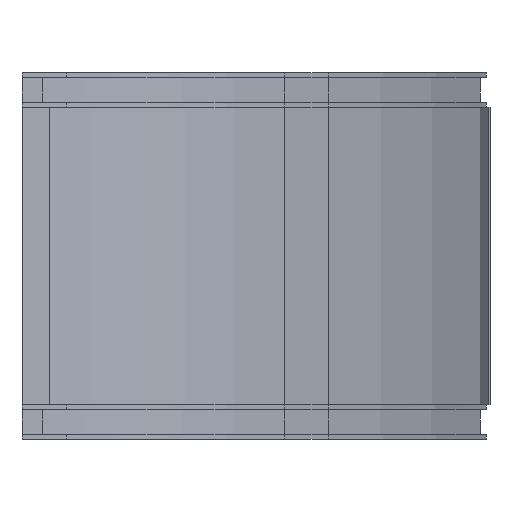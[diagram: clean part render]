
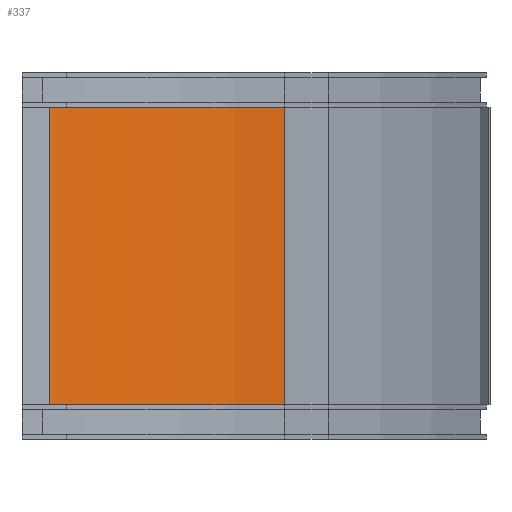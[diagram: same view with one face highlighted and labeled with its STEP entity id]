
A CAD part, front view. The second image highlights one B-rep face of the part: STEP entity #337.
In plain terms, the highlighted cylindrical face has radius 77.5 mm (diameter 155 mm), a partial arc.
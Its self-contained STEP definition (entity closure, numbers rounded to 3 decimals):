
#337=ADVANCED_FACE('',(#792),#794,.F.);
#792=FACE_BOUND('',#793,.T.);
#793=EDGE_LOOP('',(#1196,#1197,#1198,#1199));
#794=CYLINDRICAL_SURFACE('',#795,77.5);
#795=AXIS2_PLACEMENT_3D('',#796,#797,#798);
#796=CARTESIAN_POINT('',(-88.795,80.,7.));
#797=DIRECTION('',(-0.,-0.,-1.));
#798=DIRECTION('',(-0.611,0.791,0.));
#1196=ORIENTED_EDGE('',*,*,#1328,.F.);
#1197=ORIENTED_EDGE('',*,*,#1445,.F.);
#1198=ORIENTED_EDGE('',*,*,#1334,.T.);
#1199=ORIENTED_EDGE('',*,*,#1446,.T.);
#1328=EDGE_CURVE('',#1518,#1520,#1521,.T.);
#1334=EDGE_CURVE('',#1532,#1530,#1533,.T.);
#1445=EDGE_CURVE('',#1532,#1518,#1716,.T.);
#1446=EDGE_CURVE('',#1530,#1520,#1717,.T.);
#1518=VERTEX_POINT('',#1845);
#1520=VERTEX_POINT('',#1849);
#1521=CIRCLE('',#1850,77.5);
#1530=VERTEX_POINT('',#1872);
#1532=VERTEX_POINT('',#1876);
#1533=CIRCLE('',#1877,77.5);
#1716=LINE('',#2319,#2320);
#1717=LINE('',#2322,#2323);
#1845=CARTESIAN_POINT('',(-136.177,141.329,67.));
#1849=CARTESIAN_POINT('',(-88.795,157.5,67.));
#1850=AXIS2_PLACEMENT_3D('',#1851,#1852,#1853);
#1851=CARTESIAN_POINT('',(-88.795,80.,67.));
#1852=DIRECTION('',(0.,0.,-1.));
#1853=DIRECTION('',(-0.611,0.791,0.));
#1872=CARTESIAN_POINT('',(-88.795,157.5,7.));
#1876=CARTESIAN_POINT('',(-136.177,141.329,7.));
#1877=AXIS2_PLACEMENT_3D('',#1878,#1879,#1880);
#1878=CARTESIAN_POINT('',(-88.795,80.,7.));
#1879=DIRECTION('',(0.,0.,-1.));
#1880=DIRECTION('',(-0.611,0.791,0.));
#2319=CARTESIAN_POINT('',(-136.177,141.329,7.));
#2320=VECTOR('',#2321,1.);
#2321=DIRECTION('',(0.,0.,1.));
#2322=CARTESIAN_POINT('',(-88.795,157.5,7.));
#2323=VECTOR('',#2324,1.);
#2324=DIRECTION('',(0.,0.,1.));
